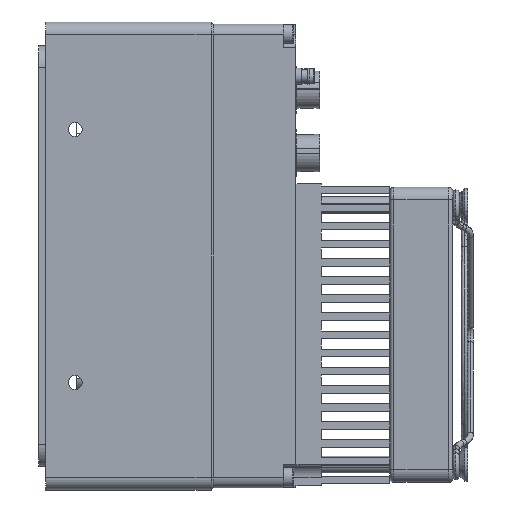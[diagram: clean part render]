
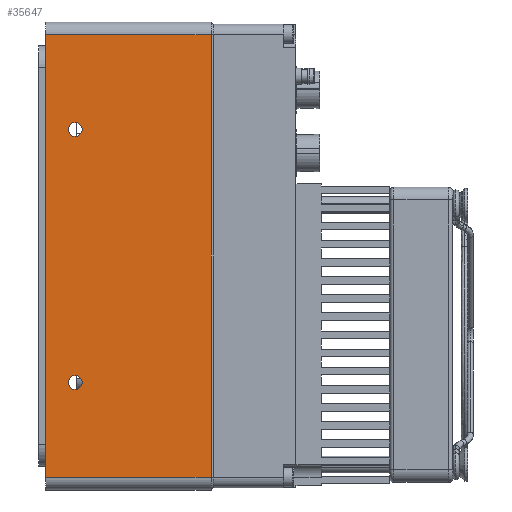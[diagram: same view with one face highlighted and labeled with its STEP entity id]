
A CAD part, left-side view. The second image highlights one B-rep face of the part: STEP entity #35647.
In plain terms, the highlighted planar face has unit normal (-1, 0, 0).
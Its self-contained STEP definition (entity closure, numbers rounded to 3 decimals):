
#452 = EDGE_CURVE ( 'NONE', #23805, #27574, #7579, .T. ) ;
#948 = DIRECTION ( 'NONE',  ( 0., 0., -1. ) ) ;
#2880 = VERTEX_POINT ( 'NONE', #12369 ) ;
#2946 = CIRCLE ( 'NONE', #10069, 1.65 ) ;
#3010 = DIRECTION ( 'NONE',  ( -1., 0., 0. ) ) ;
#4136 = DIRECTION ( 'NONE',  ( 1., 0., 0. ) ) ;
#4241 = CARTESIAN_POINT ( 'NONE',  ( -55.5, -3.35, -52.5 ) ) ;
#4587 = FACE_BOUND ( 'NONE', #20798, .T. ) ;
#4858 = VERTEX_POINT ( 'NONE', #14873 ) ;
#5571 = DIRECTION ( 'NONE',  ( -1., 0., 0. ) ) ;
#5707 = CARTESIAN_POINT ( 'NONE',  ( -55.5, -3.35, 52. ) ) ;
#6962 = EDGE_CURVE ( 'NONE', #17481, #38127, #11884, .T. ) ;
#7579 = LINE ( 'NONE', #5707, #34352 ) ;
#7983 = AXIS2_PLACEMENT_3D ( 'NONE', #23702, #5571, #26302 ) ;
#8017 = CARTESIAN_POINT ( 'NONE',  ( -55.5, 28.87, 30. ) ) ;
#8367 = ORIENTED_EDGE ( 'NONE', *, *, #38312, .T. ) ;
#8609 = EDGE_CURVE ( 'NONE', #2880, #13308, #38332, .T. ) ;
#9205 = VERTEX_POINT ( 'NONE', #25702 ) ;
#9861 = CARTESIAN_POINT ( 'NONE',  ( -55.5, -3.35, 52.5 ) ) ;
#10069 = AXIS2_PLACEMENT_3D ( 'NONE', #11522, #3010, #30026 ) ;
#10178 = CARTESIAN_POINT ( 'NONE',  ( -55.5, 32.82, 55. ) ) ;
#10950 = ORIENTED_EDGE ( 'NONE', *, *, #26262, .F. ) ;
#11522 = CARTESIAN_POINT ( 'NONE',  ( -55.5, 28.87, 30. ) ) ;
#11884 = LINE ( 'NONE', #18445, #26930 ) ;
#12369 = CARTESIAN_POINT ( 'NONE',  ( -55.5, 28.87, 28.35 ) ) ;
#12490 = ORIENTED_EDGE ( 'NONE', *, *, #27107, .T. ) ;
#12520 = EDGE_CURVE ( 'NONE', #9205, #4858, #20109, .T. ) ;
#12542 = FACE_BOUND ( 'NONE', #37266, .T. ) ;
#13239 = ORIENTED_EDGE ( 'NONE', *, *, #6962, .T. ) ;
#13308 = VERTEX_POINT ( 'NONE', #38857 ) ;
#14414 = CIRCLE ( 'NONE', #7983, 1.65 ) ;
#14873 = CARTESIAN_POINT ( 'NONE',  ( -55.5, 28.87, -28.35 ) ) ;
#14929 = CARTESIAN_POINT ( 'NONE',  ( -55.5, 32.82, -52.5 ) ) ;
#15735 = DIRECTION ( 'NONE',  ( 0., 0., 1. ) ) ;
#16265 = FACE_OUTER_BOUND ( 'NONE', #27863, .T. ) ;
#16788 = DIRECTION ( 'NONE',  ( -1., 0., 0. ) ) ;
#17481 = VERTEX_POINT ( 'NONE', #29933 ) ;
#18445 = CARTESIAN_POINT ( 'NONE',  ( -55.5, 35.87, 55. ) ) ;
#19072 = PLANE ( 'NONE',  #21343 ) ;
#19831 = DIRECTION ( 'NONE',  ( 0., 0., 1. ) ) ;
#20109 = CIRCLE ( 'NONE', #38431, 1.65 ) ;
#20798 = EDGE_LOOP ( 'NONE', ( #21229, #25759 ) ) ;
#21229 = ORIENTED_EDGE ( 'NONE', *, *, #28303, .F. ) ;
#21343 = AXIS2_PLACEMENT_3D ( 'NONE', #10178, #4136, #948 ) ;
#23526 = ORIENTED_EDGE ( 'NONE', *, *, #12520, .F. ) ;
#23702 = CARTESIAN_POINT ( 'NONE',  ( -55.5, 28.87, -30. ) ) ;
#23805 = VERTEX_POINT ( 'NONE', #4241 ) ;
#25702 = CARTESIAN_POINT ( 'NONE',  ( -55.5, 28.87, -31.65 ) ) ;
#25759 = ORIENTED_EDGE ( 'NONE', *, *, #8609, .F. ) ;
#26262 = EDGE_CURVE ( 'NONE', #4858, #9205, #14414, .T. ) ;
#26302 = DIRECTION ( 'NONE',  ( 0., 0., 1. ) ) ;
#26930 = VECTOR ( 'NONE', #27636, 1000. ) ;
#27013 = LINE ( 'NONE', #27477, #27506 ) ;
#27107 = EDGE_CURVE ( 'NONE', #27574, #17481, #27013, .T. ) ;
#27477 = CARTESIAN_POINT ( 'NONE',  ( -55.5, 32.82, 52.5 ) ) ;
#27506 = VECTOR ( 'NONE', #30368, 1000. ) ;
#27574 = VERTEX_POINT ( 'NONE', #9861 ) ;
#27636 = DIRECTION ( 'NONE',  ( 0., 0., -1. ) ) ;
#27863 = EDGE_LOOP ( 'NONE', ( #12490, #13239, #8367, #34930 ) ) ;
#28303 = EDGE_CURVE ( 'NONE', #13308, #2880, #2946, .T. ) ;
#29933 = CARTESIAN_POINT ( 'NONE',  ( -55.5, 35.87, 52.5 ) ) ;
#30026 = DIRECTION ( 'NONE',  ( 0., 0., 1. ) ) ;
#30368 = DIRECTION ( 'NONE',  ( 0., 1., 0. ) ) ;
#30977 = AXIS2_PLACEMENT_3D ( 'NONE', #8017, #16788, #19831 ) ;
#32550 = CARTESIAN_POINT ( 'NONE',  ( -55.5, 35.87, -52.5 ) ) ;
#33374 = LINE ( 'NONE', #14929, #35263 ) ;
#33619 = DIRECTION ( 'NONE',  ( -1., 0., 0. ) ) ;
#33740 = CARTESIAN_POINT ( 'NONE',  ( -55.5, 28.87, -30. ) ) ;
#34352 = VECTOR ( 'NONE', #36001, 1000. ) ;
#34930 = ORIENTED_EDGE ( 'NONE', *, *, #452, .T. ) ;
#35263 = VECTOR ( 'NONE', #35931, 1000. ) ;
#35647 = ADVANCED_FACE ( 'NONE', ( #12542, #4587, #16265 ), #19072, .F. ) ;
#35931 = DIRECTION ( 'NONE',  ( 0., -1., 0. ) ) ;
#36001 = DIRECTION ( 'NONE',  ( 0., 0., 1. ) ) ;
#37266 = EDGE_LOOP ( 'NONE', ( #10950, #23526 ) ) ;
#38127 = VERTEX_POINT ( 'NONE', #32550 ) ;
#38312 = EDGE_CURVE ( 'NONE', #38127, #23805, #33374, .T. ) ;
#38332 = CIRCLE ( 'NONE', #30977, 1.65 ) ;
#38431 = AXIS2_PLACEMENT_3D ( 'NONE', #33740, #33619, #15735 ) ;
#38857 = CARTESIAN_POINT ( 'NONE',  ( -55.5, 28.87, 31.65 ) ) ;
